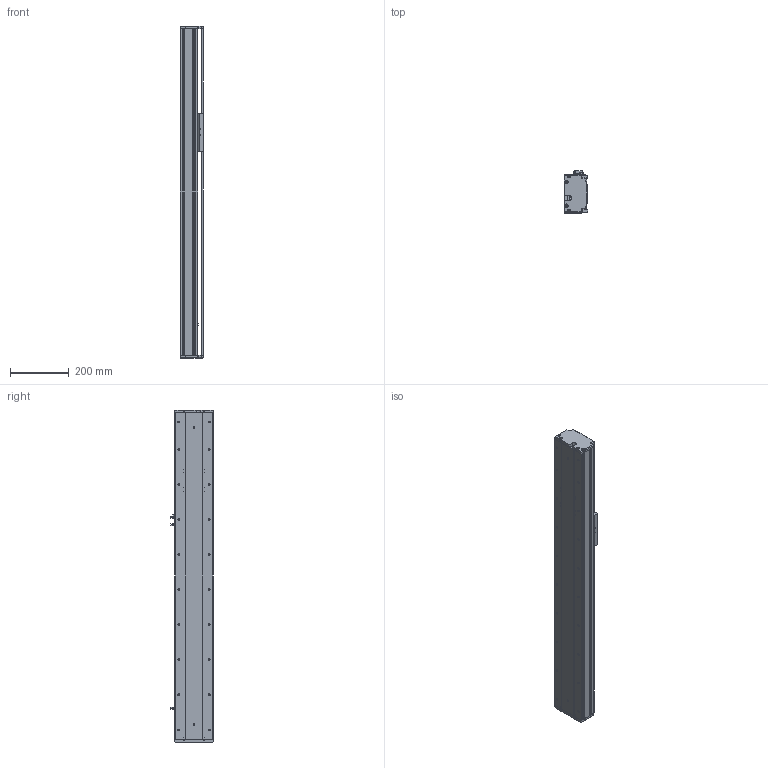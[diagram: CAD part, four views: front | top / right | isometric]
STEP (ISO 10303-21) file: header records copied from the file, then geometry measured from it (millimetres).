
FILE_DESCRIPTION (( 'STEP AP214' ), '1' );
FILE_NAME ('KSD130S-P2010-S650-M-CM.STEP', '2019-09-10T06:50:04', ( '微软用户' ), ( '微软中国' ), 'SwSTEP 2.0', 'SolidWorks 2014', '' );
FILE_SCHEMA (( 'AUTOMOTIVE_DESIGN' ));
Length unit declared in the file: millimetre
Products named in the file (8): 130宽马达安装板半封闭-内装; U倰嫖萇EEㄜSX672; 覜茼え100遵圉猾敕; 130宽盖板半封闭丝杠内装-650行程; 130宽滚珠丝杆安装板半封闭-内装-20丝杆; 130宽端盖半封闭-内装; 130宽底板半封闭丝杠内装-650行程; KSD130S-P2010-S650-M-CM
Assembly tree (9 placements, depth 2):
  KSD130S-P2010-S650-M-CM
    130宽底板半封闭丝杠内装-650行程
    130宽端盖半封闭-内装
    130宽滚珠丝杆安装板半封闭-内装-20丝杆
    130宽盖板半封闭丝杠内装-650行程
    覜茼え100遵圉猾敕
    U倰嫖萇EEㄜSX672  x3
    130宽马达安装板半封闭-内装
Bounding box: 80 x 143.7 x 1135 mm (x, y, z)
Volume: 3437111.9 mm3; surface area: 1051630.9 mm2
Topology: 9 solids, 9 shells, 1105 faces, 3224 edges, 2048 vertices
Faces by surface type: cylinder 500, plane 451, cone 154
Entity records: 35996 total; most frequent: CARTESIAN_POINT 7013, DIRECTION 5222, ORIENTED_EDGE 5136, EDGE_CURVE 2568, AXIS2_PLACEMENT_3D 1901, VERTEX_POINT 1672, VECTOR 1420, LINE 1420
